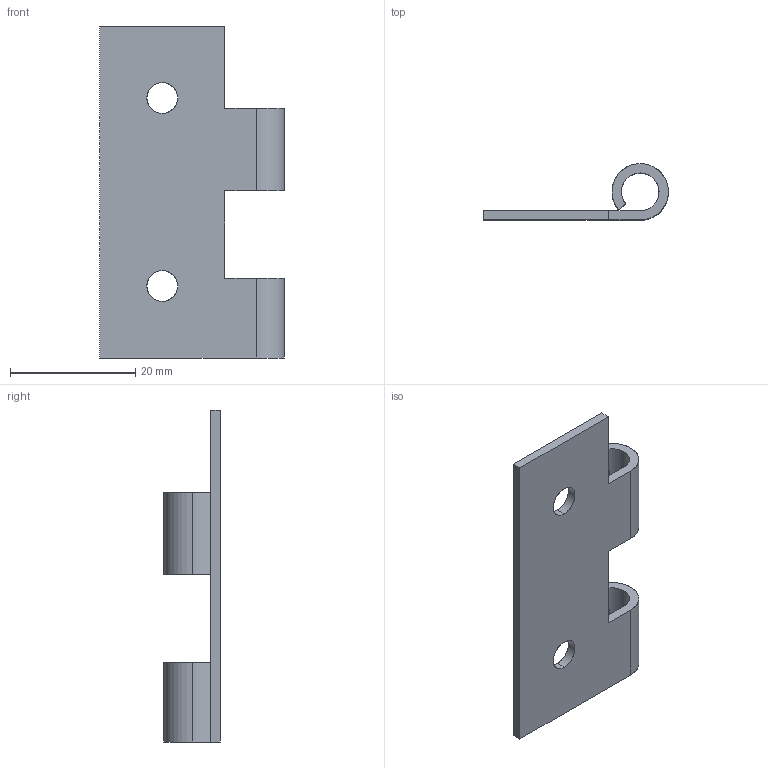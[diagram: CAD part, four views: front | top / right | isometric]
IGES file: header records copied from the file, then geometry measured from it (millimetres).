
Start section: SolidWorks IGES file using analytic representation for surfaces
Global section: file name: Z:\Mes documents\ATAO iges\Gamme CL\CL 428\428.010.00.IGS; native system: SolidWorks 2008; preprocessor: SolidWorks 2008; author: cbrechard; date: 110628.182916; units: millimetre
Bounding box: 29.5 x 9 x 53 mm (x, y, z)
Surface area: 3772 mm2 (no closed solid volume)
Topology: 0 solids, 0 shells, 28 faces, 476 edges, 476 vertices
Faces by surface type: revolution 16, bspline 12
